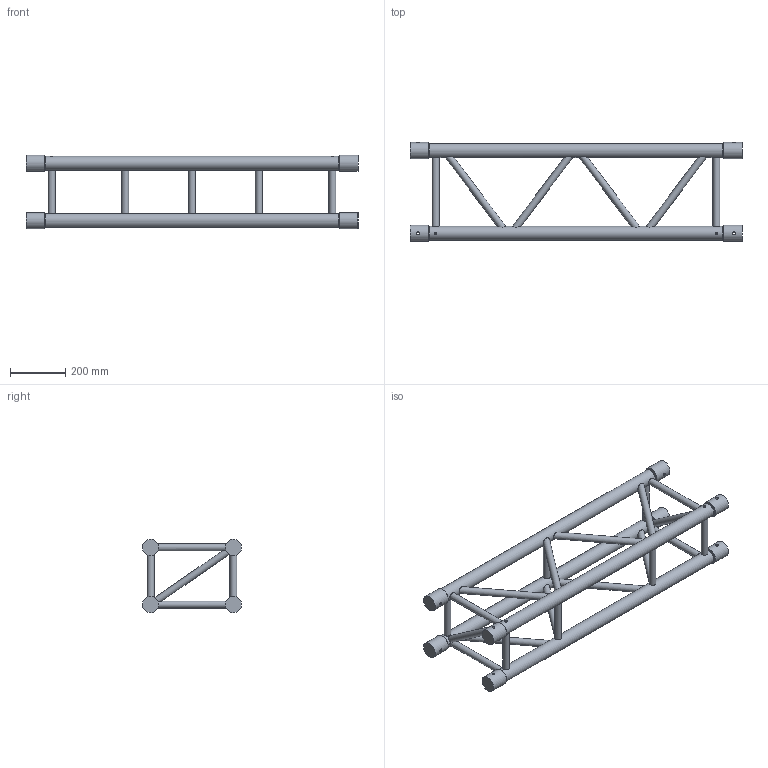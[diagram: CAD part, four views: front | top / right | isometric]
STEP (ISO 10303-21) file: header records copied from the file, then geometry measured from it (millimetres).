
FILE_DESCRIPTION(/* description */ (''),/* implementation_level */ '2;1');
FILE_NAME(/* name */ 'C:\Users\adrian.toca\Desktop\111110046.stp',/* time_stamp */ '2016-09-09T18:48:22+03:00',/* author */ ('adrian.toca'),/* organization */ (''),/* preprocessor_version */ 'ST-DEVELOPER v15.6',/* originating_system */ 'Autodesk Inventor 2015',/* authorisation */ '');
FILE_SCHEMA (('AUTOMOTIVE_DESIGN { 1 0 10303 214 3 1 1 }'));
Length unit declared in the file: millimetre
Products named in the file (1): 260030895
Bounding box: 1200 x 357.8 x 265.8 mm (x, y, z)
Volume: 12189584.8 mm3; surface area: 1237693.6 mm2
Topology: 14 solids, 17 shells, 245 faces, 533 edges, 334 vertices
Faces by surface type: plane 112, cylinder 93, cone 40
Full cylindrical faces by diameter (mm): 10 x8, 25 x21, 50 x4, 58.8 x8
Entity records: 8576 total; most frequent: CARTESIAN_POINT 3376, DIRECTION 982, ORIENTED_EDGE 944, EDGE_CURVE 442, AXIS2_PLACEMENT_3D 426, EDGE_LOOP 352, VERTEX_POINT 308, STYLED_ITEM 226
